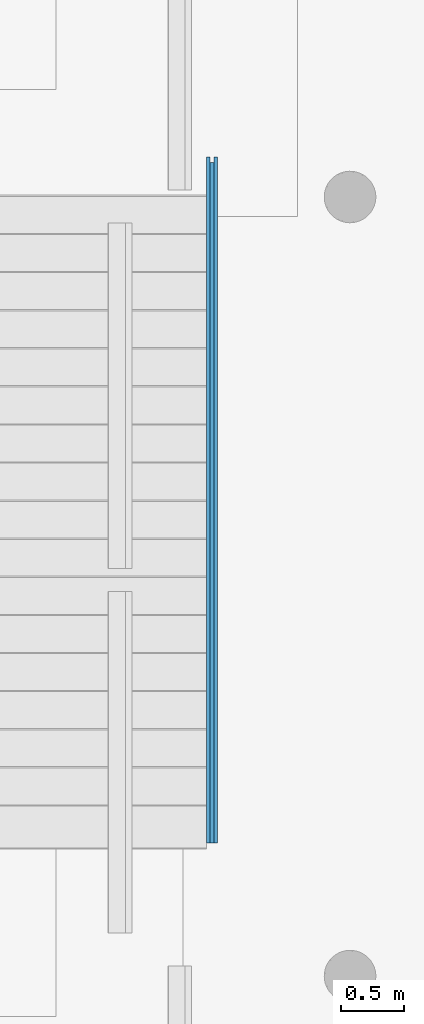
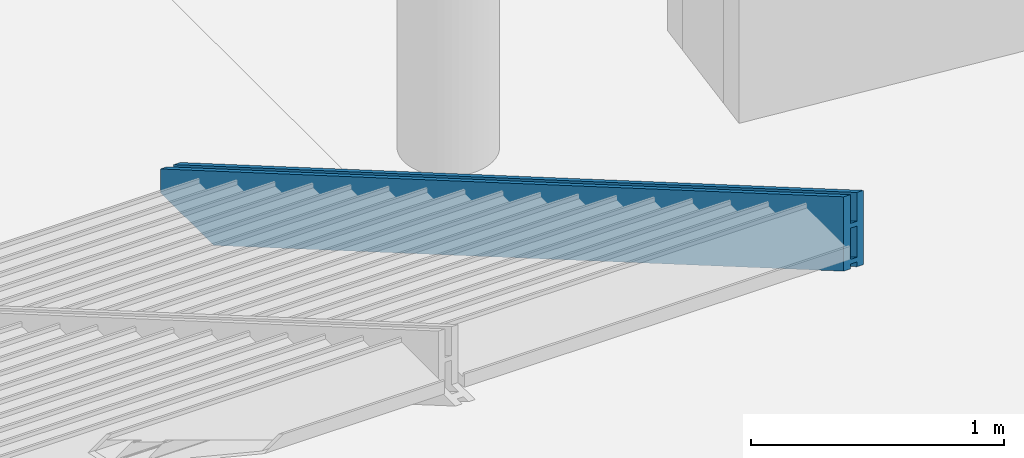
# One storey, part 26 of 42: 1 beam.
"""IFC2X3 building model written with IfcOpenShell, lengths in millimetres."""

from ifc_helpers import new_model, entity, si_unit, converted_unit, derived_unit, direction, frame, frame_2d, origin, place, context, subcontext, project, spatial, polyline, rectangle, extrude, clip, halfspace, bounded_halfspace, source, transform, mapped, material, type_object, type_shapes, element, save


model = new_model("IFC2X3")

# Units and contexts
model_context = context("Model", 3, precision=0.01, world=origin(), true_north=direction((6.12303176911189e-17, 1.0)))
body_context = subcontext(model_context, "Body", "Model", "MODEL_VIEW")
ifc_project = project(units=[si_unit("LENGTHUNIT", "METRE", prefix="MILLI"), si_unit("AREAUNIT", "SQUARE_METRE", prefix="MILLI"), si_unit("VOLUMEUNIT", "CUBIC_METRE"), converted_unit("PLANEANGLEUNIT", "DEGREE", entity("IfcRatioMeasure", 0.0174532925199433), si_unit("PLANEANGLEUNIT", "RADIAN"), dimensions=[0, 0, 0, 0, 0, 0, 0]), si_unit("MASSUNIT", "GRAM", prefix="KILO"), derived_unit("MASSDENSITYUNIT", [(si_unit("MASSUNIT", "GRAM", prefix="KILO"), 1), (si_unit("LENGTHUNIT", "METRE"), -3)]), derived_unit("MOMENTOFINERTIAUNIT", [(si_unit("LENGTHUNIT", "METRE"), 4)]), si_unit("TIMEUNIT", "SECOND"), si_unit("FREQUENCYUNIT", "HERTZ"), si_unit("THERMODYNAMICTEMPERATUREUNIT", "DEGREE_CELSIUS"), derived_unit("THERMALTRANSMITTANCEUNIT", [(si_unit("MASSUNIT", "GRAM", prefix="KILO"), 1), (si_unit("THERMODYNAMICTEMPERATUREUNIT", "KELVIN"), -1), (si_unit("TIMEUNIT", "SECOND"), -3)]), derived_unit("VOLUMETRICFLOWRATEUNIT", [(si_unit("LENGTHUNIT", "METRE"), 3), (si_unit("TIMEUNIT", "SECOND"), -1)]), si_unit("ELECTRICCURRENTUNIT", "AMPERE"), si_unit("ELECTRICVOLTAGEUNIT", "VOLT"), si_unit("POWERUNIT", "WATT"), si_unit("FORCEUNIT", "NEWTON", prefix="KILO"), si_unit("ILLUMINANCEUNIT", "LUX"), si_unit("LUMINOUSFLUXUNIT", "LUMEN"), si_unit("LUMINOUSINTENSITYUNIT", "CANDELA"), derived_unit("USERDEFINED", [(si_unit("MASSUNIT", "GRAM", prefix="KILO"), -1), (si_unit("LENGTHUNIT", "METRE"), -2), (si_unit("TIMEUNIT", "SECOND"), 3), (si_unit("LUMINOUSFLUXUNIT", "LUMEN"), 1)]), derived_unit("LINEARVELOCITYUNIT", [(si_unit("LENGTHUNIT", "METRE"), 1), (si_unit("TIMEUNIT", "SECOND"), -1)]), si_unit("PRESSUREUNIT", "PASCAL"), derived_unit("USERDEFINED", [(si_unit("LENGTHUNIT", "METRE"), -2), (si_unit("MASSUNIT", "GRAM", prefix="KILO"), 1), (si_unit("TIMEUNIT", "SECOND"), -2)]), derived_unit("LINEARFORCEUNIT", [(si_unit("MASSUNIT", "GRAM", prefix="KILO"), 1), (si_unit("LENGTHUNIT", "METRE"), 1), (si_unit("TIMEUNIT", "SECOND"), -2), (si_unit("LENGTHUNIT", "METRE"), -1)]), derived_unit("PLANARFORCEUNIT", [(si_unit("MASSUNIT", "GRAM", prefix="KILO"), 1), (si_unit("LENGTHUNIT", "METRE"), 1), (si_unit("TIMEUNIT", "SECOND"), -2), (si_unit("LENGTHUNIT", "METRE"), -2)])], contexts=[model_context])

# Site, building, storey
site_placement = place(None, origin())
site = spatial("IfcSite", under=ifc_project, at=site_placement, Name="Theater aan de Parade", CompositionType="ELEMENT")
building_placement = place(site_placement, origin())
building = spatial("IfcBuilding", under=site, at=building_placement, Name="Theater aan de Parade", CompositionType="ELEMENT")
storey_placement = place(building_placement, frame((0.0, 0.0, -3300.0)))
storey = spatial("IfcBuildingStorey", under=building, at=storey_placement, Name="-1 kelder", CompositionType="ELEMENT", Elevation=-3300.0)

# Beam
ifc_material = material(Name="00_PBT_MAT_staal_S355")
beam_type = type_object("IfcBeamType", Name="28_PBT_SF_staal_trapboom_glas:trapboom", PredefinedType="BEAM", material=ifc_material)
shared_shape = source(origin(), body_context, "Body", "Clipping", [
    clip(clip(extrude(rectangle(XDim=20.0000000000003, YDim=30.0000000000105, at=frame_2d((2.49222864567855e-12, 4.33164615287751e-12), x_axis=(1.0, 0.0))), frame((41191.8281932, 35434.1848212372, -3228.64474830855), z_axis=(0.0, -0.86447483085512, 0.50267610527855), x_axis=(0.0, -0.50267610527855, -0.86447483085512)), (0.0, 0.0, 1.0), 5853.41569372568), halfspace(frame((49711.8281932, 35779.080900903, -3220.0), z_axis=(0.0, 0.0, -1.0), x_axis=(-1.0, 0.0, 0.0)), False)), halfspace(frame((49711.8281932, 30379.081040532, -668.296825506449), z_axis=(0.0, -1.0, 0.0), x_axis=(-1.0, 0.0, 0.0)), False)),
    clip(clip(clip(extrude(rectangle(XDim=310.000000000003, YDim=30.0000000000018, at=frame_2d((4.33164615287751e-12, -2.97006863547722e-12), x_axis=(0.0, 1.0))), frame((41221.8281932, 35751.0093632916, -3268.27589271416), z_axis=(0.0, -0.864474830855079, 0.50267610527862), x_axis=(1.0, 0.0, 0.0)), (0.0, 0.0, 1.0), 6304.22416542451), halfspace(frame((49711.8281932, 30379.081040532, -668.296825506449), z_axis=(0.0, -1.0, 0.0), x_axis=(-1.0, 0.0, 0.0)), False)), bounded_halfspace(frame((49711.8281932, 35779.080900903, -3220.0), z_axis=(0.0, 0.0, -1.0), x_axis=(-1.0, 0.0, 0.0)), False, frame((41221.8281932, 35751.0093632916, -3268.27589271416), z_axis=(0.0, -0.864474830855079, 0.50267610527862), x_axis=(1.0, 0.0, 0.0)), polyline([(-15.0, 55.8441853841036), (15.0, 55.8441853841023), (15.0, -155.0), (-15.0, -155.0), (-15.0, 55.8441853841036)]))), bounded_halfspace(frame((49711.8281932, 35779.080900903, -1469.0778465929), z_axis=(0.0, 1.0, 0.0), x_axis=(-1.0, 0.0, 0.0)), False, frame((41221.8281932, 35751.0093632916, -3268.27589271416), z_axis=(0.0, -0.864474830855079, 0.50267610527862), x_axis=(1.0, 0.0, 0.0)), polyline([(15.0, 55.844185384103), (-15.0, 55.8441853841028), (-15.0, 155.0), (15.0, 155.0), (15.0, 55.844185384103)]))),
    clip(clip(extrude(rectangle(XDim=19.9999999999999, YDim=30.0000000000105, at=frame_2d((-1.79145587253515e-12, 4.33164615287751e-12), x_axis=(1.0, 0.0))), frame((41191.8281932, 35732.5877061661, -3228.64474830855), z_axis=(0.0, -0.864474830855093, 0.502676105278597), x_axis=(0.0, -0.502676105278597, -0.864474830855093)), (0.0, 0.0, 1.0), 6198.59969941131), halfspace(frame((49711.8281932, 35779.080900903, -3220.0), z_axis=(0.0, 0.0, -1.0), x_axis=(-1.0, 0.0, 0.0)), False)), halfspace(frame((49711.8281932, 30379.081040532, -668.296825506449), z_axis=(0.0, -1.0, 0.0), x_axis=(-1.0, 0.0, 0.0)), False)),
    clip(clip(clip(extrude(rectangle(XDim=310.000000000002, YDim=29.9999999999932, at=frame_2d((8.66329230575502e-12, -6.96331881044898e-13), x_axis=(0.0, 1.0))), frame((41161.8281932, 35751.0093632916, -3268.27589271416), z_axis=(0.0, -0.864474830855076, 0.502676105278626), x_axis=(1.0, 0.0, 0.0)), (0.0, 0.0, 1.0), 6304.22416542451), halfspace(frame((49711.8281932, 30379.081040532, -668.296825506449), z_axis=(0.0, -1.0, 0.0), x_axis=(-1.0, 0.0, 0.0)), False)), bounded_halfspace(frame((49711.8281932, 35779.080900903, -3220.0), z_axis=(0.0, 0.0, -1.0), x_axis=(-1.0, 0.0, 0.0)), False, frame((41161.8281932, 35751.0093632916, -3268.27589271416), z_axis=(0.0, -0.864474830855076, 0.502676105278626), x_axis=(1.0, 0.0, 0.0)), polyline([(-15.0, 55.8441853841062), (15.0, 55.8441853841), (15.0, -155.0), (-15.0, -155.0), (-15.0, 55.8441853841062)]))), bounded_halfspace(frame((49711.8281932, 35779.080900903, -1469.0778465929), z_axis=(0.0, 1.0, 0.0), x_axis=(-1.0, 0.0, 0.0)), False, frame((41161.8281932, 35751.0093632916, -3268.27589271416), z_axis=(0.0, -0.864474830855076, 0.502676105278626), x_axis=(1.0, 0.0, 0.0)), polyline([(15.0, 55.8441853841), (-15.0, 55.8441853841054), (-15.0, 155.0), (15.0, 155.0), (15.0, 55.8441853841)]))),
])
type_shapes(beam_type, [shared_shape])
beam_placement = place(storey_placement, frame((0.0, 0.0, 3300.0)))
element("IfcBeam", 1, at=beam_placement, inside=storey, type_object=beam_type, material=ifc_material, Name="28_PBT_SF_staal_trapboom_glas:trapboom", ObjectType="28_PBT_SF_staal_trapboom_glas:trapboom", context=body_context, shape_type="MappedRepresentation", body=[
    mapped(shared_shape, transform((0.0, 0.0, 0.0), scale=1.0)),
])

save(model, "model.ifc")
